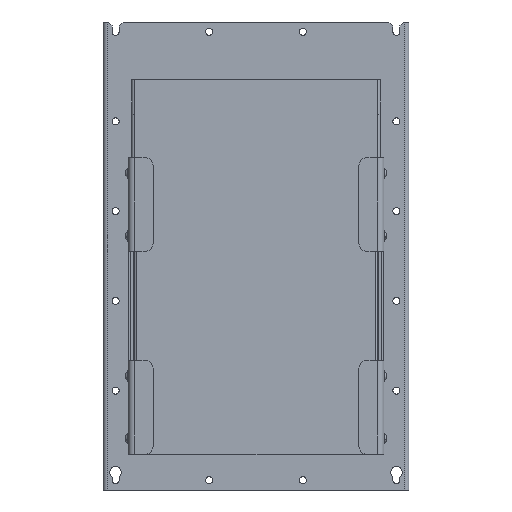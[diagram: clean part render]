
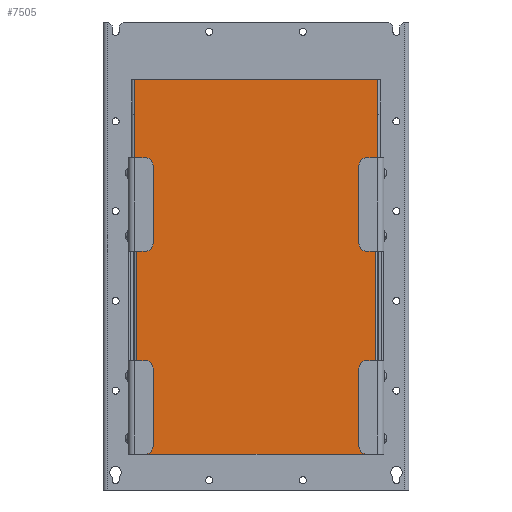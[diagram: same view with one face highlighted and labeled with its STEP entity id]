
A CAD part, front view. The second image highlights one B-rep face of the part: STEP entity #7505.
In plain terms, the highlighted planar face has unit normal (0, -1, 0).
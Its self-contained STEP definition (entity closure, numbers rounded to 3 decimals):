
#2975 = ORIENTED_EDGE ( 'NONE', *, *, #81978, .T. ) ;
#5237 = DIRECTION ( 'NONE',  ( 1., 0., 0. ) ) ;
#5327 = CARTESIAN_POINT ( 'NONE',  ( 153., -126., 46. ) ) ;
#7043 = VECTOR ( 'NONE', #108018, 1000. ) ;
#7299 = DIRECTION ( 'NONE',  ( 1., 0., 0. ) ) ;
#7505 = ADVANCED_FACE ( 'NONE', ( #24279 ), #93926, .F. ) ;
#10710 = LINE ( 'NONE', #55297, #28912 ) ;
#13733 = EDGE_CURVE ( 'NONE', #57434, #50510, #51855, .T. ) ;
#14397 = VECTOR ( 'NONE', #5237, 1000. ) ;
#15515 = ORIENTED_EDGE ( 'NONE', *, *, #78233, .T. ) ;
#15668 = CARTESIAN_POINT ( 'NONE',  ( 144., -126., -374. ) ) ;
#16814 = DIRECTION ( 'NONE',  ( 0., 0., 1. ) ) ;
#17963 = ORIENTED_EDGE ( 'NONE', *, *, #13733, .T. ) ;
#19204 = ORIENTED_EDGE ( 'NONE', *, *, #90326, .T. ) ;
#22955 = LINE ( 'NONE', #58917, #70690 ) ;
#24112 = CARTESIAN_POINT ( 'NONE',  ( -153., -126., 426. ) ) ;
#24279 = FACE_OUTER_BOUND ( 'NONE', #85996, .T. ) ;
#26364 = EDGE_CURVE ( 'NONE', #56462, #57434, #22955, .T. ) ;
#28912 = VECTOR ( 'NONE', #46178, 1000. ) ;
#32123 = DIRECTION ( 'NONE',  ( 0., 0., -1. ) ) ;
#32927 = LINE ( 'NONE', #42618, #93006 ) ;
#41367 = CARTESIAN_POINT ( 'NONE',  ( 155.9, -126., 426. ) ) ;
#42618 = CARTESIAN_POINT ( 'NONE',  ( -153., -126., 426. ) ) ;
#44197 = ORIENTED_EDGE ( 'NONE', *, *, #95992, .T. ) ;
#46178 = DIRECTION ( 'NONE',  ( -1., 0., 0. ) ) ;
#46319 = LINE ( 'NONE', #81178, #52429 ) ;
#46624 = CARTESIAN_POINT ( 'NONE',  ( -155.9, -126., 426. ) ) ;
#47101 = VERTEX_POINT ( 'NONE', #52966 ) ;
#49245 = LINE ( 'NONE', #66386, #14397 ) ;
#50510 = VERTEX_POINT ( 'NONE', #24112 ) ;
#50511 = DIRECTION ( 'NONE',  ( 0., 1., 0. ) ) ;
#50525 = CARTESIAN_POINT ( 'NONE',  ( 155.9, -126., 426. ) ) ;
#51855 = LINE ( 'NONE', #85028, #107403 ) ;
#52313 = EDGE_CURVE ( 'NONE', #50510, #47101, #32927, .T. ) ;
#52429 = VECTOR ( 'NONE', #67414, 1000. ) ;
#52966 = CARTESIAN_POINT ( 'NONE',  ( -153., -126., 46. ) ) ;
#53201 = VERTEX_POINT ( 'NONE', #57232 ) ;
#55297 = CARTESIAN_POINT ( 'NONE',  ( -159.4, -126., 526. ) ) ;
#56339 = ORIENTED_EDGE ( 'NONE', *, *, #69561, .T. ) ;
#56462 = VERTEX_POINT ( 'NONE', #95069 ) ;
#57232 = CARTESIAN_POINT ( 'NONE',  ( 153., -126., 426. ) ) ;
#57434 = VERTEX_POINT ( 'NONE', #46624 ) ;
#58917 = CARTESIAN_POINT ( 'NONE',  ( -155.9, -126., 526. ) ) ;
#66386 = CARTESIAN_POINT ( 'NONE',  ( 0., -126., 426. ) ) ;
#66593 = VERTEX_POINT ( 'NONE', #94788 ) ;
#67414 = DIRECTION ( 'NONE',  ( 1., 0., 0. ) ) ;
#68307 = DIRECTION ( 'NONE',  ( 0., 0., -1. ) ) ;
#69561 = EDGE_CURVE ( 'NONE', #47101, #74044, #46319, .T. ) ;
#70690 = VECTOR ( 'NONE', #32123, 1000. ) ;
#73094 = LINE ( 'NONE', #87969, #7043 ) ;
#73137 = VECTOR ( 'NONE', #16814, 1000. ) ;
#74044 = VERTEX_POINT ( 'NONE', #5327 ) ;
#75836 = VERTEX_POINT ( 'NONE', #41367 ) ;
#78233 = EDGE_CURVE ( 'NONE', #75836, #66593, #78521, .T. ) ;
#78521 = LINE ( 'NONE', #50525, #73137 ) ;
#81178 = CARTESIAN_POINT ( 'NONE',  ( -164., -126., 46. ) ) ;
#81978 = EDGE_CURVE ( 'NONE', #74044, #53201, #73094, .T. ) ;
#85028 = CARTESIAN_POINT ( 'NONE',  ( 0., -126., 426. ) ) ;
#85996 = EDGE_LOOP ( 'NONE', ( #89436, #56339, #2975, #19204, #15515, #44197, #98650, #17963 ) ) ;
#87969 = CARTESIAN_POINT ( 'NONE',  ( 153., -126., -374. ) ) ;
#89436 = ORIENTED_EDGE ( 'NONE', *, *, #52313, .T. ) ;
#90326 = EDGE_CURVE ( 'NONE', #53201, #75836, #49245, .T. ) ;
#91674 = DIRECTION ( 'NONE',  ( 0., 0., -1. ) ) ;
#93006 = VECTOR ( 'NONE', #68307, 1000. ) ;
#93926 = PLANE ( 'NONE',  #100824 ) ;
#94788 = CARTESIAN_POINT ( 'NONE',  ( 155.9, -126., 526. ) ) ;
#95069 = CARTESIAN_POINT ( 'NONE',  ( -155.9, -126., 526. ) ) ;
#95992 = EDGE_CURVE ( 'NONE', #66593, #56462, #10710, .T. ) ;
#98650 = ORIENTED_EDGE ( 'NONE', *, *, #26364, .T. ) ;
#100824 = AXIS2_PLACEMENT_3D ( 'NONE', #15668, #50511, #91674 ) ;
#107403 = VECTOR ( 'NONE', #7299, 1000. ) ;
#108018 = DIRECTION ( 'NONE',  ( 0., 0., 1. ) ) ;
